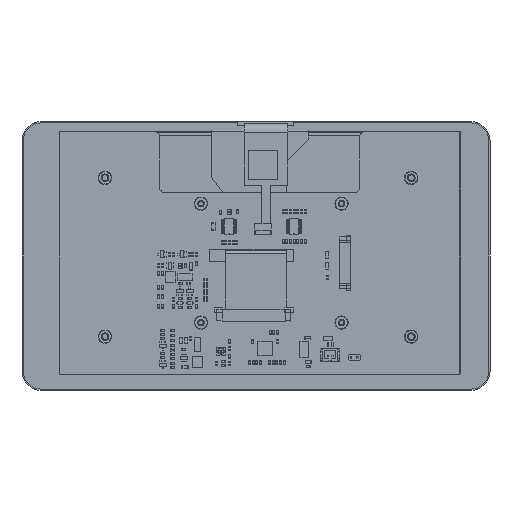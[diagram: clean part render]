
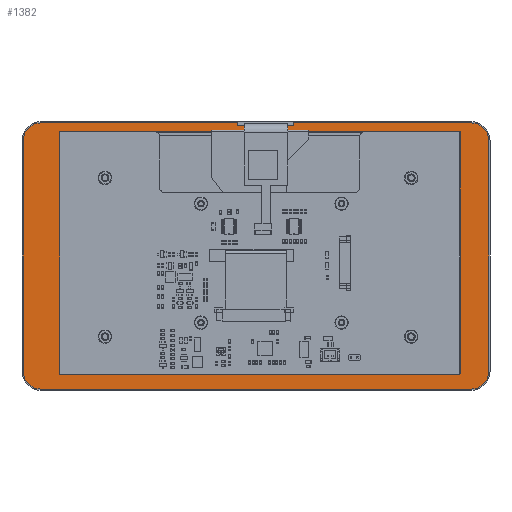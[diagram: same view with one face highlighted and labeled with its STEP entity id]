
A CAD part, front view. The second image highlights one B-rep face of the part: STEP entity #1382.
In plain terms, the highlighted planar face has unit normal (0, -1, 0).
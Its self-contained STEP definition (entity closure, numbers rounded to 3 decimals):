
#135=CARTESIAN_POINT('',(-88.6,-0.2,48.52));
#136=DIRECTION('',(0.,1.,0.));
#137=DIRECTION('',(-1.,0.,0.));
#138=AXIS2_PLACEMENT_3D('',#135,#136,#137);
#140=DIRECTION('',(1.,0.,0.));
#141=VECTOR('',#140,80.968);
#142=CARTESIAN_POINT('',(-88.6,-0.2,55.9));
#143=LINE('',#142,#141);
#144=DIRECTION('',(0.,0.,-1.));
#145=VECTOR('',#144,1.279);
#146=CARTESIAN_POINT('',(-7.632,-0.2,55.9));
#147=LINE('',#146,#145);
#148=DIRECTION('',(1.,0.,0.));
#149=VECTOR('',#148,23.162);
#150=CARTESIAN_POINT('',(-7.632,-0.2,54.621));
#151=LINE('',#150,#149);
#152=DIRECTION('',(0.,0.,1.));
#153=VECTOR('',#152,1.279);
#154=CARTESIAN_POINT('',(15.53,-0.2,54.621));
#155=LINE('',#154,#153);
#156=DIRECTION('',(1.,0.,0.));
#157=VECTOR('',#156,73.07);
#158=CARTESIAN_POINT('',(15.53,-0.2,55.9));
#159=LINE('',#158,#157);
#160=CARTESIAN_POINT('',(88.6,-0.2,48.52));
#161=DIRECTION('',(0.,1.,0.));
#162=DIRECTION('',(0.,0.,1.));
#163=AXIS2_PLACEMENT_3D('',#160,#161,#162);
#165=DIRECTION('',(0.,0.,-1.));
#166=VECTOR('',#165,95.);
#167=CARTESIAN_POINT('',(95.98,-0.2,48.52));
#168=LINE('',#167,#166);
#169=CARTESIAN_POINT('',(88.6,-0.2,-46.48));
#170=DIRECTION('',(0.,1.,0.));
#171=DIRECTION('',(1.,0.,0.));
#172=AXIS2_PLACEMENT_3D('',#169,#170,#171);
#174=DIRECTION('',(-1.,0.,0.));
#175=VECTOR('',#174,177.2);
#176=CARTESIAN_POINT('',(88.6,-0.2,-53.86));
#177=LINE('',#176,#175);
#178=CARTESIAN_POINT('',(-88.6,-0.2,-46.48));
#179=DIRECTION('',(0.,1.,0.));
#180=DIRECTION('',(0.,0.,-1.));
#181=AXIS2_PLACEMENT_3D('',#178,#179,#180);
#183=DIRECTION('',(0.,0.,1.));
#184=VECTOR('',#183,95.);
#185=CARTESIAN_POINT('',(-95.98,-0.2,-46.48));
#186=LINE('',#185,#184);
#187=DIRECTION('',(-1.,0.,0.));
#188=VECTOR('',#187,75.7);
#189=CARTESIAN_POINT('',(-4.94,-0.2,52.24));
#190=LINE('',#189,#188);
#191=DIRECTION('',(0.,0.,-1.));
#192=VECTOR('',#191,99.77);
#193=CARTESIAN_POINT('',(-80.64,-0.2,52.24));
#194=LINE('',#193,#192);
#195=DIRECTION('',(1.,0.,0.));
#196=VECTOR('',#195,164.87);
#197=CARTESIAN_POINT('',(-80.64,-0.2,-47.53));
#198=LINE('',#197,#196);
#199=DIRECTION('',(0.,0.,1.));
#200=VECTOR('',#199,99.77);
#201=CARTESIAN_POINT('',(84.23,-0.2,-47.53));
#202=LINE('',#201,#200);
#203=DIRECTION('',(-1.,0.,0.));
#204=VECTOR('',#203,71.17);
#205=CARTESIAN_POINT('',(84.23,-0.2,52.24));
#206=LINE('',#205,#204);
#459=DIRECTION('',(0.,0.,-1.));
#460=VECTOR('',#459,0.942);
#461=CARTESIAN_POINT('',(13.06,-0.2,53.182));
#462=LINE('',#461,#460);
#520=DIRECTION('',(0.,0.,1.));
#521=VECTOR('',#520,0.942);
#522=CARTESIAN_POINT('',(-4.94,-0.2,52.24));
#523=LINE('',#522,#521);
#557=DIRECTION('',(1.,0.,0.));
#558=VECTOR('',#557,18.);
#559=CARTESIAN_POINT('',(-4.94,-0.2,53.182));
#560=LINE('',#559,#558);
#821=CARTESIAN_POINT('',(-88.6,-0.2,-53.86));
#822=VERTEX_POINT('',#821);
#823=CARTESIAN_POINT('',(88.6,-0.2,-53.86));
#824=VERTEX_POINT('',#823);
#917=CARTESIAN_POINT('',(13.06,-0.2,53.182));
#918=CARTESIAN_POINT('',(13.06,-0.2,52.24));
#919=VERTEX_POINT('',#917);
#920=VERTEX_POINT('',#918);
#943=CARTESIAN_POINT('',(-95.98,-0.2,48.52));
#944=CARTESIAN_POINT('',(-88.6,-0.2,55.9));
#945=VERTEX_POINT('',#943);
#946=VERTEX_POINT('',#944);
#947=CARTESIAN_POINT('',(-7.632,-0.2,55.9));
#948=VERTEX_POINT('',#947);
#949=CARTESIAN_POINT('',(-7.632,-0.2,54.621));
#950=VERTEX_POINT('',#949);
#951=CARTESIAN_POINT('',(15.53,-0.2,54.621));
#952=VERTEX_POINT('',#951);
#953=CARTESIAN_POINT('',(15.53,-0.2,55.9));
#954=VERTEX_POINT('',#953);
#955=CARTESIAN_POINT('',(88.6,-0.2,55.9));
#956=VERTEX_POINT('',#955);
#957=CARTESIAN_POINT('',(95.98,-0.2,48.52));
#958=VERTEX_POINT('',#957);
#959=CARTESIAN_POINT('',(95.98,-0.2,-46.48));
#960=VERTEX_POINT('',#959);
#961=CARTESIAN_POINT('',(-95.98,-0.2,-46.48));
#962=VERTEX_POINT('',#961);
#963=CARTESIAN_POINT('',(-4.94,-0.2,53.182));
#964=VERTEX_POINT('',#963);
#965=CARTESIAN_POINT('',(-4.94,-0.2,52.24));
#966=VERTEX_POINT('',#965);
#967=CARTESIAN_POINT('',(-80.64,-0.2,52.24));
#968=VERTEX_POINT('',#967);
#969=CARTESIAN_POINT('',(-80.64,-0.2,-47.53));
#970=VERTEX_POINT('',#969);
#971=CARTESIAN_POINT('',(84.23,-0.2,-47.53));
#972=VERTEX_POINT('',#971);
#973=CARTESIAN_POINT('',(84.23,-0.2,52.24));
#974=VERTEX_POINT('',#973);
#1338=CARTESIAN_POINT('',(0.,-0.2,0.));
#1339=DIRECTION('',(0.,-1.,0.));
#1340=DIRECTION('',(1.,0.,0.));
#1341=AXIS2_PLACEMENT_3D('',#1338,#1339,#1340);
#1342=PLANE('',#1341);
#1344=ORIENTED_EDGE('',*,*,#1343,.T.);
#1346=ORIENTED_EDGE('',*,*,#1345,.T.);
#1348=ORIENTED_EDGE('',*,*,#1347,.T.);
#1350=ORIENTED_EDGE('',*,*,#1349,.T.);
#1352=ORIENTED_EDGE('',*,*,#1351,.T.);
#1354=ORIENTED_EDGE('',*,*,#1353,.T.);
#1356=ORIENTED_EDGE('',*,*,#1355,.T.);
#1358=ORIENTED_EDGE('',*,*,#1357,.T.);
#1360=ORIENTED_EDGE('',*,*,#1359,.T.);
#1362=ORIENTED_EDGE('',*,*,#1361,.T.);
#1364=ORIENTED_EDGE('',*,*,#1363,.T.);
#1366=ORIENTED_EDGE('',*,*,#1365,.T.);
#1367=EDGE_LOOP('',(#1344,#1346,#1348,#1350,#1352,#1354,#1356,#1358,#1360,#1362,
#1364,#1366));
#1368=FACE_OUTER_BOUND('',#1367,.F.);
#1370=ORIENTED_EDGE('',*,*,#1369,.F.);
#1372=ORIENTED_EDGE('',*,*,#1371,.F.);
#1374=ORIENTED_EDGE('',*,*,#1373,.F.);
#1375=ORIENTED_EDGE('',*,*,#1240,.T.);
#1376=ORIENTED_EDGE('',*,*,#1284,.T.);
#1377=ORIENTED_EDGE('',*,*,#1305,.T.);
#1378=ORIENTED_EDGE('',*,*,#1325,.T.);
#1379=ORIENTED_EDGE('',*,*,#1262,.T.);
#1380=EDGE_LOOP('',(#1370,#1372,#1374,#1375,#1376,#1377,#1378,#1379));
#1381=FACE_BOUND('',#1380,.F.);
#1382=ADVANCED_FACE('',(#1368,#1381),#1342,.T.);
#139=CIRCLE('',#138,7.38);
#164=CIRCLE('',#163,7.38);
#173=CIRCLE('',#172,7.38);
#182=CIRCLE('',#181,7.38);
#1240=EDGE_CURVE('',#966,#968,#190,.T.);
#1262=EDGE_CURVE('',#974,#920,#206,.T.);
#1284=EDGE_CURVE('',#968,#970,#194,.T.);
#1305=EDGE_CURVE('',#970,#972,#198,.T.);
#1325=EDGE_CURVE('',#972,#974,#202,.T.);
#1343=EDGE_CURVE('',#945,#946,#139,.T.);
#1345=EDGE_CURVE('',#946,#948,#143,.T.);
#1347=EDGE_CURVE('',#948,#950,#147,.T.);
#1349=EDGE_CURVE('',#950,#952,#151,.T.);
#1351=EDGE_CURVE('',#952,#954,#155,.T.);
#1353=EDGE_CURVE('',#954,#956,#159,.T.);
#1355=EDGE_CURVE('',#956,#958,#164,.T.);
#1357=EDGE_CURVE('',#958,#960,#168,.T.);
#1359=EDGE_CURVE('',#960,#824,#173,.T.);
#1361=EDGE_CURVE('',#824,#822,#177,.T.);
#1363=EDGE_CURVE('',#822,#962,#182,.T.);
#1365=EDGE_CURVE('',#962,#945,#186,.T.);
#1369=EDGE_CURVE('',#919,#920,#462,.T.);
#1371=EDGE_CURVE('',#964,#919,#560,.T.);
#1373=EDGE_CURVE('',#966,#964,#523,.T.);
